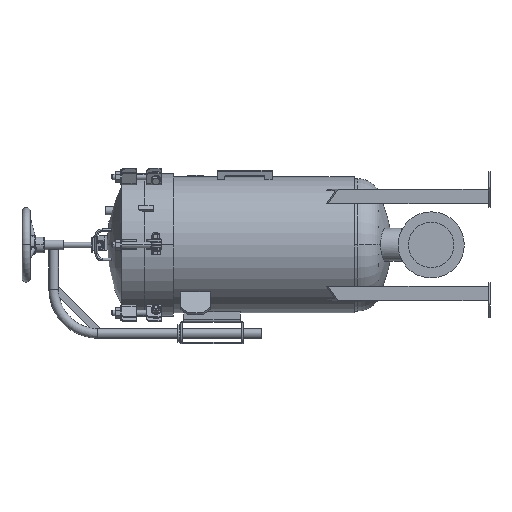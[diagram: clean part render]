
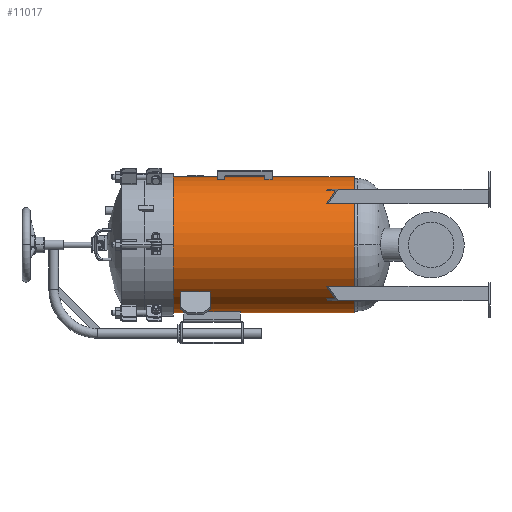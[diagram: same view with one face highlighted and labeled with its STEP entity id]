
A CAD part, left-side view. The second image highlights one B-rep face of the part: STEP entity #11017.
In plain terms, the highlighted cylindrical face has radius 234.95 mm (diameter 469.9 mm), a partial arc.
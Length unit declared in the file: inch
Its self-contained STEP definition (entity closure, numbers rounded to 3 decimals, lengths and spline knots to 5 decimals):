
#1185 = DIRECTION ( 'NONE',  ( 0., -1., 0. ) ) ;
#2853 = CARTESIAN_POINT ( 'NONE',  ( 0., -28.59375, -9.25 ) ) ;
#10497 = DIRECTION ( 'NONE',  ( 1., 0., 0. ) ) ;
#11017 = ADVANCED_FACE ( 'Defeatured_4450', ( #43504 ), #14701, .T. ) ;
#13010 = VERTEX_POINT ( 'NONE', #2853 ) ;
#13657 = DIRECTION ( 'NONE',  ( 0., 1., 0. ) ) ;
#14701 = CYLINDRICAL_SURFACE ( 'NONE', #33042, 9.25 ) ;
#16812 = VECTOR ( 'NONE', #25554, 39.37008 ) ;
#16827 = ORIENTED_EDGE ( 'NONE', *, *, #18781, .T. ) ;
#18781 = EDGE_CURVE ( 'NONE', #13010, #33707, #29711, .T. ) ;
#19559 = DIRECTION ( 'NONE',  ( 0., 1., 0. ) ) ;
#20978 = LINE ( 'NONE', #35746, #16812 ) ;
#22961 = CARTESIAN_POINT ( 'NONE',  ( 0., -2.09375, 9.25 ) ) ;
#22996 = AXIS2_PLACEMENT_3D ( 'NONE', #37004, #19559, #34331 ) ;
#24895 = LINE ( 'NONE', #22961, #39248 ) ;
#25554 = DIRECTION ( 'NONE',  ( 0., -1., 0. ) ) ;
#29711 = CIRCLE ( 'NONE', #33564, 9.25 ) ;
#32850 = DIRECTION ( 'NONE',  ( 0., -1., 0. ) ) ;
#33042 = AXIS2_PLACEMENT_3D ( 'NONE', #40599, #32850, #47642 ) ;
#33564 = AXIS2_PLACEMENT_3D ( 'NONE', #36876, #13657, #10497 ) ;
#33707 = VERTEX_POINT ( 'NONE', #39745 ) ;
#34153 = CARTESIAN_POINT ( 'NONE',  ( 0., -2.09375, 9.25 ) ) ;
#34331 = DIRECTION ( 'NONE',  ( 1., 0., 0. ) ) ;
#34613 = ORIENTED_EDGE ( 'NONE', *, *, #46278, .F. ) ;
#35746 = CARTESIAN_POINT ( 'NONE',  ( 0., -2.09375, -9.25 ) ) ;
#35833 = CARTESIAN_POINT ( 'NONE',  ( 0., -2.09375, -9.25 ) ) ;
#36876 = CARTESIAN_POINT ( 'NONE',  ( 0., -28.59375, 0. ) ) ;
#37004 = CARTESIAN_POINT ( 'NONE',  ( 0., -2.09375, 0. ) ) ;
#38554 = ORIENTED_EDGE ( 'NONE', *, *, #46616, .T. ) ;
#39248 = VECTOR ( 'NONE', #1185, 39.37008 ) ;
#39541 = EDGE_LOOP ( 'NONE', ( #34613, #39969, #38554, #16827 ) ) ;
#39745 = CARTESIAN_POINT ( 'NONE',  ( 0., -28.59375, 9.25 ) ) ;
#39969 = ORIENTED_EDGE ( 'NONE', *, *, #46431, .F. ) ;
#40036 = CIRCLE ( 'NONE', #22996, 9.25 ) ;
#40206 = VERTEX_POINT ( 'NONE', #35833 ) ;
#40599 = CARTESIAN_POINT ( 'NONE',  ( 0., -2.09375, 0. ) ) ;
#43504 = FACE_OUTER_BOUND ( 'NONE', #39541, .T. ) ;
#43987 = VERTEX_POINT ( 'NONE', #34153 ) ;
#46278 = EDGE_CURVE ( 'NONE', #43987, #33707, #24895, .T. ) ;
#46431 = EDGE_CURVE ( 'NONE', #40206, #43987, #40036, .T. ) ;
#46616 = EDGE_CURVE ( 'NONE', #40206, #13010, #20978, .T. ) ;
#47642 = DIRECTION ( 'NONE',  ( 0., 0., -1. ) ) ;
